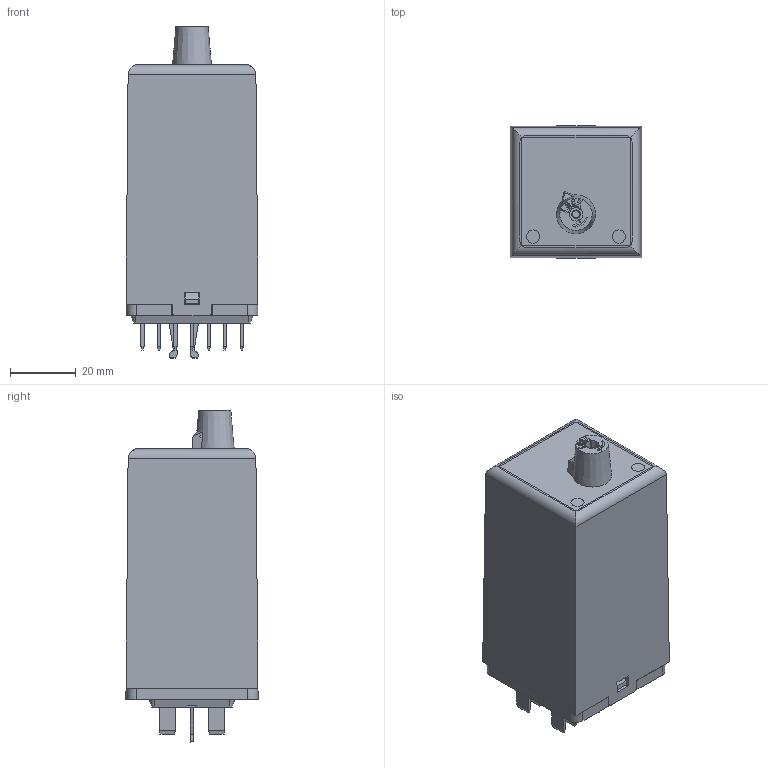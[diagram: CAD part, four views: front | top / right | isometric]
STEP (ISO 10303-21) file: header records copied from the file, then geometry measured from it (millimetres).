
FILE_DESCRIPTION((''),'2;1');
FILE_NAME('I:\TI\Bibliotheek\Inventor\Relais\TDB4\TDB4 variable.stp','2011-03-08T11:45:10',('oey'),(''),'Autodesk Inventor 2011','Autodesk Inventor 2011','');
FILE_SCHEMA(('AUTOMOTIVE_DESIGN { 1 0 10303 214 1 1 1 1 }'));
Length unit declared in the file: millimetre
Products named in the file (1): TDB4 variable
Bounding box: 40 x 40.06 x 100.65 mm (x, y, z)
Volume: 32041.3 mm3; surface area: 38645 mm2
Topology: 1 solids, 3 shells, 1606 faces, 4807 edges, 3143 vertices
Faces by surface type: plane 945, cylinder 442, bspline 146, sphere 56, cone 15, torus 2
Full cylindrical faces by diameter (mm): 1.7 x2, 2 x3, 2.2 x1, 2.69 x1, 2.7 x5, 3.3 x1, 3.5 x1, 4 x10, 4.5 x1, 5 x1, 5.4 x1, 6 x1
Entity records: 57573 total; most frequent: CARTESIAN_POINT 11955, ORIENTED_EDGE 9688, DIRECTION 8682, EDGE_CURVE 4844, VECTOR 3352, LINE 3352, VERTEX_POINT 3128, AXIS2_PLACEMENT_3D 2665
